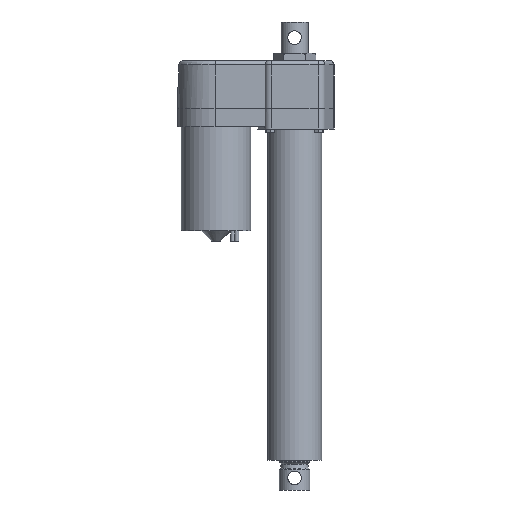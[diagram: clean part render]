
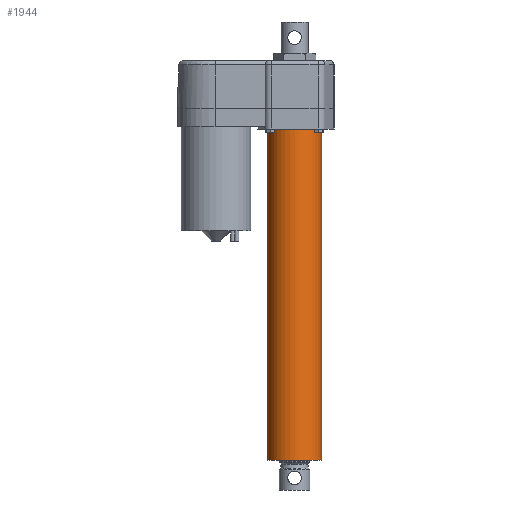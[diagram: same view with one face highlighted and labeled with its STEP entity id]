
A CAD part, left-side view. The second image highlights one B-rep face of the part: STEP entity #1944.
In plain terms, the highlighted cylindrical face has radius 25.5 mm (diameter 51 mm), a full revolution.
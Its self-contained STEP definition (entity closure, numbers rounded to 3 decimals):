
#239 = CIRCLE ( 'NONE', #3669, 25.5 ) ;
#241 = CIRCLE ( 'NONE', #3670, 25.5 ) ;
#1297 = CARTESIAN_POINT ( 'NONE',  ( 0., 0., 0. ) ) ;
#1301 = CARTESIAN_POINT ( 'NONE',  ( 0., 0., 312.1 ) ) ;
#1305 = DIRECTION ( 'NONE',  ( 0., 0., -1. ) ) ;
#1306 = DIRECTION ( 'NONE',  ( 1., 0., 0. ) ) ;
#1307 = DIRECTION ( 'NONE',  ( 0., 0., 1. ) ) ;
#1308 = DIRECTION ( 'NONE',  ( 1., 0., 0. ) ) ;
#1716 = VERTEX_POINT ( 'NONE', #1717 ) ;
#1717 = CARTESIAN_POINT ( 'NONE',  ( 25.5, 0., 0. ) ) ;
#1718 = VERTEX_POINT ( 'NONE', #1719 ) ;
#1719 = CARTESIAN_POINT ( 'NONE',  ( 25.5, 0., 312.1 ) ) ;
#1890 = ORIENTED_EDGE ( 'NONE', *, *, #2961, .F. ) ;
#1894 = ORIENTED_EDGE ( 'NONE', *, *, #2962, .F. ) ;
#1944 = ADVANCED_FACE ( 'NONE', ( #2316, #2315 ), #2314, .T. ) ;
#2314 = CYLINDRICAL_SURFACE ( 'NONE', #3026, 25.5 ) ;
#2315 = FACE_OUTER_BOUND ( 'NONE', #3952, .T. ) ;
#2316 = FACE_OUTER_BOUND ( 'NONE', #3954, .T. ) ;
#2961 = EDGE_CURVE ( 'NONE', #1716, #1716, #239, .T. ) ;
#2962 = EDGE_CURVE ( 'NONE', #1718, #1718, #241, .T. ) ;
#3026 = AXIS2_PLACEMENT_3D ( 'NONE', #4123, #4097, #4109 ) ;
#3669 = AXIS2_PLACEMENT_3D ( 'NONE', #1297, #1305, #1306 ) ;
#3670 = AXIS2_PLACEMENT_3D ( 'NONE', #1301, #1307, #1308 ) ;
#3952 = EDGE_LOOP ( 'NONE', ( #1894 ) ) ;
#3954 = EDGE_LOOP ( 'NONE', ( #1890 ) ) ;
#4097 = DIRECTION ( 'NONE',  ( 0., 0., 1. ) ) ;
#4109 = DIRECTION ( 'NONE',  ( 1., 0., 0. ) ) ;
#4123 = CARTESIAN_POINT ( 'NONE',  ( 0., 0., -72.125 ) ) ;
